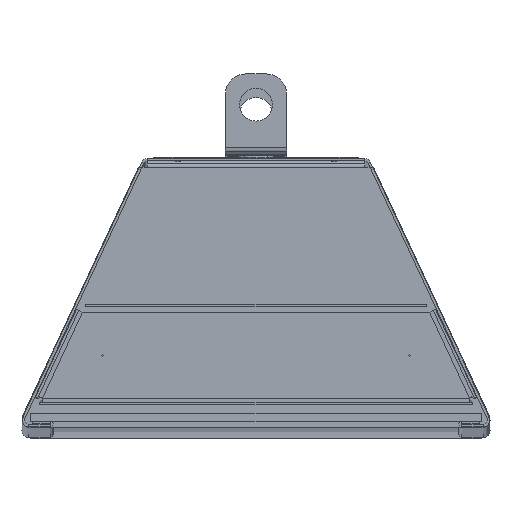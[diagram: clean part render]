
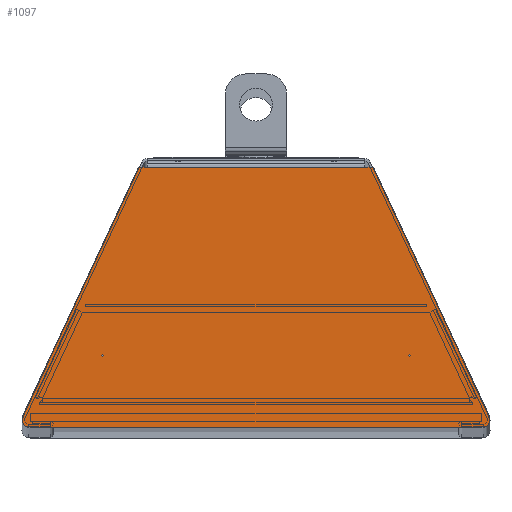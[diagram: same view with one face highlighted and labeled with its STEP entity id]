
A CAD part, top view. The second image highlights one B-rep face of the part: STEP entity #1097.
In plain terms, the highlighted planar face has unit normal (0, 0, 1) as drawn and (0, 0, -1) by its records, which use the part's own axes.
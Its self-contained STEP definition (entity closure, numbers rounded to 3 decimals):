
#1097=ADVANCED_FACE('',(#3447,#3449,#3451),#3453,.F.);
#3447=FACE_BOUND('',#3448,.T.);
#3448=EDGE_LOOP('',(#9770,#9771,#9772,#9773,#9774,#9775,#9776,#9777));
#3449=FACE_BOUND('',#3450,.T.);
#3450=EDGE_LOOP('',(#9778));
#3451=FACE_BOUND('',#3452,.T.);
#3452=EDGE_LOOP('',(#9779));
#3453=PLANE('',#3454);
#3454=AXIS2_PLACEMENT_3D('',#3455,#3456,#3457);
#3455=CARTESIAN_POINT('',(0.,0.,0.));
#3456=DIRECTION('',(0.,0.,1.));
#3457=DIRECTION('',(1.,0.,0.));
#9770=ORIENTED_EDGE('',*,*,#12225,.F.);
#9771=ORIENTED_EDGE('',*,*,#12226,.F.);
#9772=ORIENTED_EDGE('',*,*,#12227,.F.);
#9773=ORIENTED_EDGE('',*,*,#12215,.T.);
#9774=ORIENTED_EDGE('',*,*,#12228,.F.);
#9775=ORIENTED_EDGE('',*,*,#12229,.F.);
#9776=ORIENTED_EDGE('',*,*,#12230,.F.);
#9777=ORIENTED_EDGE('',*,*,#12231,.F.);
#9778=ORIENTED_EDGE('',*,*,#12232,.T.);
#9779=ORIENTED_EDGE('',*,*,#12233,.T.);
#12215=EDGE_CURVE('',#13977,#13975,#13978,.T.);
#12225=EDGE_CURVE('',#13990,#13991,#13992,.T.);
#12226=EDGE_CURVE('',#13993,#13990,#13994,.T.);
#12227=EDGE_CURVE('',#13977,#13993,#13995,.T.);
#12228=EDGE_CURVE('',#13996,#13975,#13997,.T.);
#12229=EDGE_CURVE('',#13998,#13996,#13999,.T.);
#12230=EDGE_CURVE('',#14000,#13998,#14001,.T.);
#12231=EDGE_CURVE('',#13991,#14000,#14002,.T.);
#12232=EDGE_CURVE('',#14003,#14003,#14004,.T.);
#12233=EDGE_CURVE('',#14005,#14005,#14006,.T.);
#13975=VERTEX_POINT('',#17427);
#13977=VERTEX_POINT('',#17432);
#13978=LINE('',#17433,#17434);
#13990=VERTEX_POINT('',#17468);
#13991=VERTEX_POINT('',#17469);
#13992=CIRCLE('',#17470,2.);
#13993=VERTEX_POINT('',#17474);
#13994=LINE('',#17475,#17476);
#13995=LINE('',#17478,#17479);
#13996=VERTEX_POINT('',#17481);
#13997=LINE('',#17482,#17483);
#13998=VERTEX_POINT('',#17485);
#13999=LINE('',#17486,#17487);
#14000=VERTEX_POINT('',#17489);
#14001=CIRCLE('',#17490,2.);
#14002=LINE('',#17494,#17495);
#14003=VERTEX_POINT('',#17497);
#14004=CIRCLE('',#17498,0.25);
#14005=VERTEX_POINT('',#17502);
#14006=CIRCLE('',#17503,0.25);
#17427=CARTESIAN_POINT('',(26.5,63.4,0.));
#17432=CARTESIAN_POINT('',(-26.5,63.4,0.));
#17433=CARTESIAN_POINT('',(-26.5,63.4,0.));
#17434=VECTOR('',#17435,1.);
#17435=DIRECTION('',(1.,0.,0.));
#17468=CARTESIAN_POINT('',(-56.923,2.845,0.));
#17469=CARTESIAN_POINT('',(-55.111,0.,0.));
#17470=AXIS2_PLACEMENT_3D('',#17471,#17472,#17473);
#17471=CARTESIAN_POINT('',(-55.111,2.,0.));
#17472=DIRECTION('',(0.,0.,1.));
#17473=DIRECTION('',(-0.906,0.423,0.));
#17474=CARTESIAN_POINT('',(-28.686,63.4,0.));
#17475=CARTESIAN_POINT('',(-28.686,63.4,0.));
#17476=VECTOR('',#17477,1.);
#17477=DIRECTION('',(-0.423,-0.906,0.));
#17478=CARTESIAN_POINT('',(-26.5,63.4,0.));
#17479=VECTOR('',#17480,1.);
#17480=DIRECTION('',(-1.,0.,0.));
#17481=CARTESIAN_POINT('',(28.686,63.4,0.));
#17482=CARTESIAN_POINT('',(28.686,63.4,0.));
#17483=VECTOR('',#17484,1.);
#17484=DIRECTION('',(-1.,0.,0.));
#17485=CARTESIAN_POINT('',(56.923,2.845,0.));
#17486=CARTESIAN_POINT('',(56.923,2.845,0.));
#17487=VECTOR('',#17488,1.);
#17488=DIRECTION('',(-0.423,0.906,0.));
#17489=CARTESIAN_POINT('',(55.111,0.,0.));
#17490=AXIS2_PLACEMENT_3D('',#17491,#17492,#17493);
#17491=CARTESIAN_POINT('',(55.111,2.,0.));
#17492=DIRECTION('',(0.,0.,1.));
#17493=DIRECTION('',(0.,-1.,0.));
#17494=CARTESIAN_POINT('',(-55.111,0.,0.));
#17495=VECTOR('',#17496,1.);
#17496=DIRECTION('',(1.,0.,0.));
#17497=CARTESIAN_POINT('',(-37.25,17.5,0.));
#17498=AXIS2_PLACEMENT_3D('',#17499,#17500,#17501);
#17499=CARTESIAN_POINT('',(-37.5,17.5,0.));
#17500=DIRECTION('',(0.,0.,1.));
#17501=DIRECTION('',(1.,0.,0.));
#17502=CARTESIAN_POINT('',(37.75,17.5,0.));
#17503=AXIS2_PLACEMENT_3D('',#17504,#17505,#17506);
#17504=CARTESIAN_POINT('',(37.5,17.5,0.));
#17505=DIRECTION('',(0.,0.,1.));
#17506=DIRECTION('',(1.,0.,0.));
